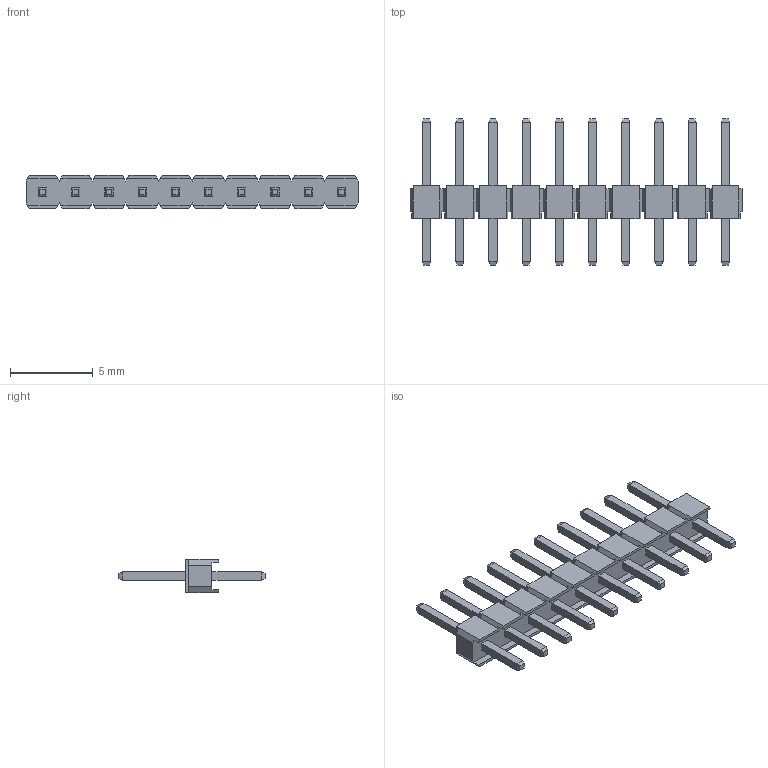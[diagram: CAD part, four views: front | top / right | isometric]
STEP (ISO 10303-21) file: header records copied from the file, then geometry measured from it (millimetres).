
FILE_DESCRIPTION (( 'STEP AP214' ), '1' );
FILE_NAME ('PLS2-10.STEP', '2011-05-17T11:13:25', ( 'vpeshkov' ), ( 'licard' ), 'SwSTEP 2.0', 'SolidWorks 2009', '' );
FILE_SCHEMA (( 'AUTOMOTIVE_DESIGN' ));
Length unit declared in the file: millimetre
Products named in the file (1): PLS2-10
Bounding box: 20 x 8.8 x 2 mm (x, y, z)
Volume: 80.6 mm3; surface area: 333.7 mm2
Topology: 1 solids, 1 shells, 324 faces, 786 edges, 484 vertices
Faces by surface type: plane 324
Entity records: 11124 total; most frequent: CARTESIAN_POINT 1595, ORIENTED_EDGE 1572, DIRECTION 1436, EDGE_CURVE 786, VECTOR 786, LINE 786, VERTEX_POINT 484, EDGE_LOOP 344
